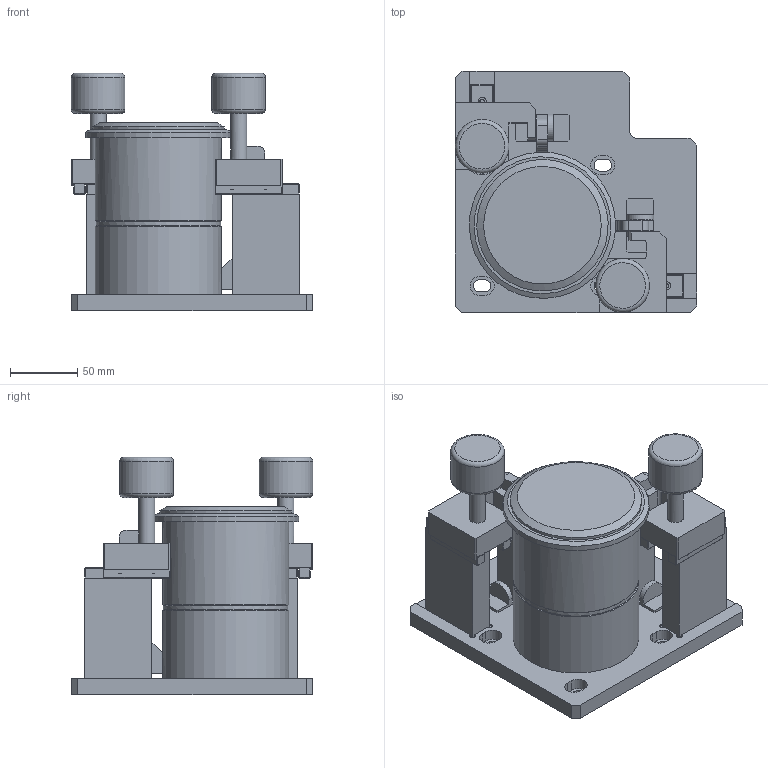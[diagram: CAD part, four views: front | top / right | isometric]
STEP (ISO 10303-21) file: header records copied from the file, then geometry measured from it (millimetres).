
FILE_DESCRIPTION(/* description */ (''),/* implementation_level */ '2;1');
FILE_NAME(/* name */ 'A:\업무자료\03. 개발\홍보자료제작\홈페이지(BKCI)\20181008 이전이력\첨부자료\STEP 파일\EFAU-15\EF2A\EF2A-15-0-UPE-S DOWN.stp',/* time_stamp */ '2018-11-30T13:39:07+09:00',/* author */ ('idt-l'),/* organization */ (''),/* preprocessor_version */ 'ST-DEVELOPER v16.13',/* originating_system */ 'Autodesk Inventor 2018',/* authorisation */ '');
FILE_SCHEMA (('AUTOMOTIVE_DESIGN { 1 0 10303 214 3 1 1 }'));
Length unit declared in the file: inch
Products named in the file (1): EF2A-15-0-UPE-S DOWN
Bounding box: 180 x 180 x 177 mm (x, y, z)
Volume: 1623616.6 mm3; surface area: 188098 mm2
Topology: 3 solids, 5 shells, 396 faces, 920 edges, 559 vertices
Faces by surface type: plane 313, cylinder 73, cone 6, torus 4
Full cylindrical faces by diameter (mm): 3.242 x12, 4.134 x2, 5 x2, 6 x12, 12 x2, 40 x2, 93 x1, 94 x2, 94.2 x1, 98 x1, 109 x1
Entity records: 11093 total; most frequent: DIRECTION 1809, CARTESIAN_POINT 1798, ORIENTED_EDGE 1714, EDGE_CURVE 857, LINE 699, VECTOR 699, AXIS2_PLACEMENT_3D 555, VERTEX_POINT 544
